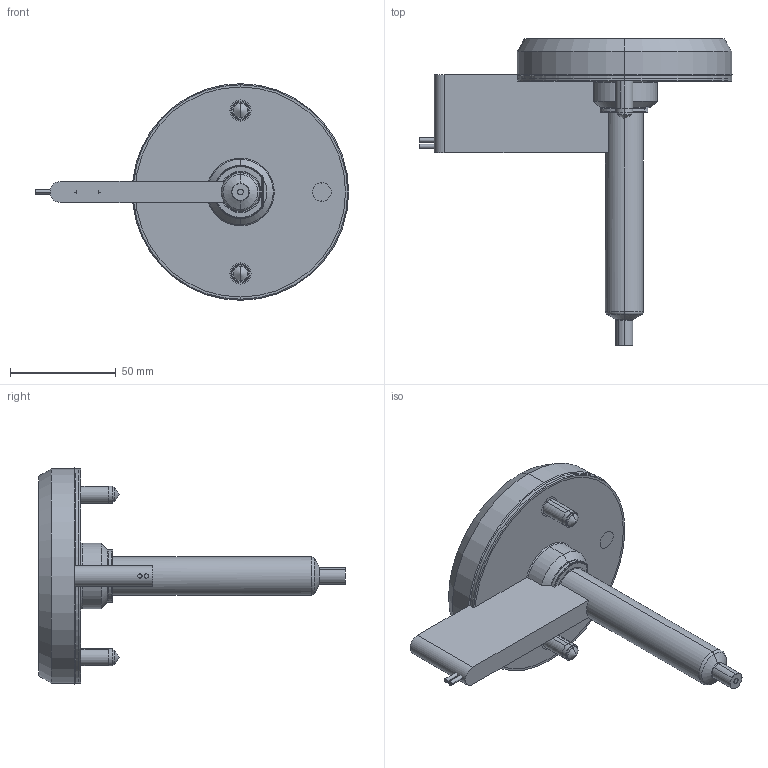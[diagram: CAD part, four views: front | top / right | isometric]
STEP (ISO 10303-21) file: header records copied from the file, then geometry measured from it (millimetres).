
FILE_DESCRIPTION (( 'STEP AP214' ), '1' );
FILE_NAME ('SOHSB4100-SOFBOP04EX.STEP', '2024-11-29T06:22:07', ( '' ), ( '' ), 'SwSTEP 2.0', 'SolidWorks 2022', '' );
FILE_SCHEMA (( 'AUTOMOTIVE_DESIGN' ));
Length unit declared in the file: millimetre
Products named in the file (11): EcoONE-HSB04-04003(A)_SOHSBNB4100; socket head cap screw_iso_ISO 4762 M8 x 25 - 25N; EcoONE-HSB04-04006(A)_SONHC04; EcoONE-HSB04-04 Open Gate Cut-out Details_Ext Sprue Gate or Full Body Gate; EcoONE-HSB04-Open Gate Extended Full Body Standad Tip Assembly_SOFBOP04EX; EcoONE-HSB04-00002(A)_SOHSBLR04; EcoONE-HSB04-04004(A)_SONH10097; SOHSB4100-SOFBOP04EX; EcoONE-HSB04-Point Gate Needle Tip-Standard_SOPGN0401; EcoONE-HSB04-04005(A)_SOTC10200-J; EcoONE-HSB04-Open Gate Extended Full Body Retainer Tip_SOFRT0402
Assembly tree (13 placements, depth 3):
  SOHSB4100-SOFBOP04EX
    EcoONE-HSB04-04003(A)_SOHSBNB4100
    EcoONE-HSB04-04004(A)_SONH10097
    EcoONE-HSB04-04005(A)_SOTC10200-J
    EcoONE-HSB04-04006(A)_SONHC04  x2
    EcoONE-HSB04-00002(A)_SOHSBLR04
    socket head cap screw_iso_ISO 4762 M8 x 25 - 25N  x3
    EcoONE-HSB04-04 Open Gate Cut-out Details_Ext Sprue Gate or Full Body Gate
    EcoONE-HSB04-Open Gate Extended Full Body Standad Tip Assembly_SOFBOP04EX
      EcoONE-HSB04-Open Gate Extended Full Body Retainer Tip_SOFRT0402
      EcoONE-HSB04-Point Gate Needle Tip-Standard_SOPGN0401
Bounding box: 148.2 x 145 x 102.4 mm (x, y, z)
Volume: 242372.2 mm3; surface area: 77377.8 mm2
Topology: 12 solids, 12 shells, 532 faces, 1316 edges, 819 vertices
Faces by surface type: cylinder 160, plane 154, cone 89, bspline 87, torus 34, sphere 8
Entity records: 24786 total; most frequent: CARTESIAN_POINT 13474, ORIENTED_EDGE 2292, DIRECTION 2020, EDGE_CURVE 1146, AXIS2_PLACEMENT_3D 817, VERTEX_POINT 723, EDGE_LOOP 501, FACE_OUTER_BOUND 462
